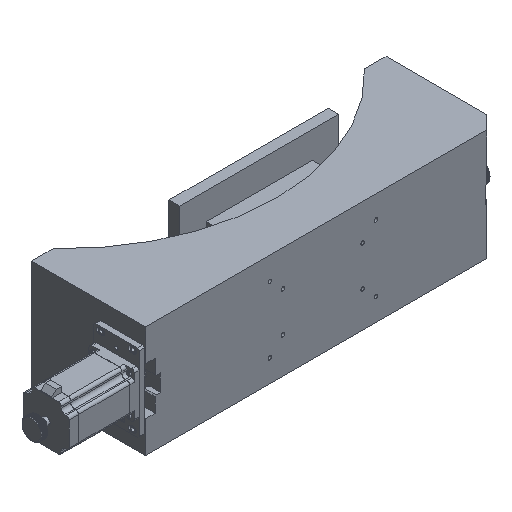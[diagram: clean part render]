
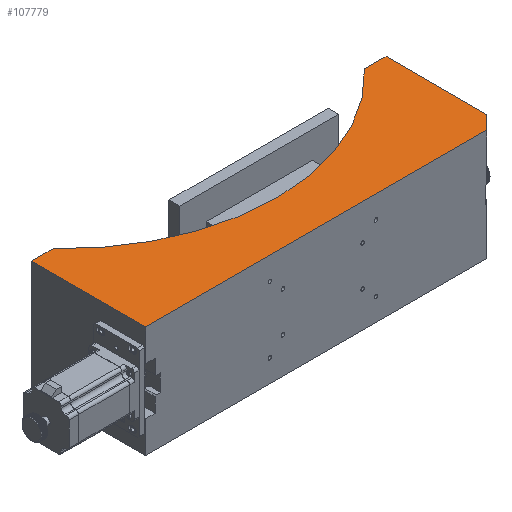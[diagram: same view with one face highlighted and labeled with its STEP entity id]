
A CAD part, isometric view. The second image highlights one B-rep face of the part: STEP entity #107779.
In plain terms, the highlighted planar face has unit normal (0, 0, 1).
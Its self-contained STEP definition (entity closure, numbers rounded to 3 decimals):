
#2150 = EDGE_LOOP ( 'NONE', ( #30627, #54651, #69217, #174279, #83484, #164025, #118990 ) ) ;
#14975 = DIRECTION ( 'NONE',  ( 0., -1., 0. ) ) ;
#18712 = CARTESIAN_POINT ( 'NONE',  ( 0., 0., 210. ) ) ;
#23628 = VECTOR ( 'NONE', #51824, 1000. ) ;
#28523 = DIRECTION ( 'NONE',  ( 1., 0., 0. ) ) ;
#30627 = ORIENTED_EDGE ( 'NONE', *, *, #188803, .T. ) ;
#33508 = VERTEX_POINT ( 'NONE', #127577 ) ;
#37346 = VERTEX_POINT ( 'NONE', #141026 ) ;
#38667 = VERTEX_POINT ( 'NONE', #199818 ) ;
#40889 = EDGE_CURVE ( 'NONE', #38667, #89665, #129681, .T. ) ;
#45379 = VECTOR ( 'NONE', #135954, 1000. ) ;
#50267 = CARTESIAN_POINT ( 'NONE',  ( 668., 0., 210. ) ) ;
#51824 = DIRECTION ( 'NONE',  ( -1., 0., 0. ) ) ;
#54200 = VECTOR ( 'NONE', #14975, 1000. ) ;
#54651 = ORIENTED_EDGE ( 'NONE', *, *, #191869, .T. ) ;
#55068 = AXIS2_PLACEMENT_3D ( 'NONE', #76690, #124496, #176460 ) ;
#55193 = CARTESIAN_POINT ( 'NONE',  ( 0., 0., 210. ) ) ;
#57496 = CARTESIAN_POINT ( 'NONE',  ( 732., 89., 210. ) ) ;
#60234 = CARTESIAN_POINT ( 'NONE',  ( 643., 0., 210. ) ) ;
#62866 = DIRECTION ( 'NONE',  ( -1., 0., 0. ) ) ;
#66227 = DIRECTION ( 'NONE',  ( 0., 1., 0. ) ) ;
#69217 = ORIENTED_EDGE ( 'NONE', *, *, #77925, .T. ) ;
#72142 = FACE_OUTER_BOUND ( 'NONE', #2150, .T. ) ;
#73973 = VECTOR ( 'NONE', #62866, 1000. ) ;
#75526 = LINE ( 'NONE', #57496, #174560 ) ;
#76690 = CARTESIAN_POINT ( 'NONE',  ( 334., 487., 210. ) ) ;
#77925 = EDGE_CURVE ( 'NONE', #106274, #33508, #192600, .T. ) ;
#83484 = ORIENTED_EDGE ( 'NONE', *, *, #40889, .T. ) ;
#89665 = VERTEX_POINT ( 'NONE', #152871 ) ;
#93679 = LINE ( 'NONE', #173376, #73973 ) ;
#98988 = CARTESIAN_POINT ( 'NONE',  ( 668., 25., 210. ) ) ;
#102990 = LINE ( 'NONE', #55193, #45379 ) ;
#106274 = VERTEX_POINT ( 'NONE', #98988 ) ;
#107779 = ADVANCED_FACE ( 'NONE', ( #72142 ), #138004, .T. ) ;
#118135 = AXIS2_PLACEMENT_3D ( 'NONE', #193052, #207925, #28523 ) ;
#118990 = ORIENTED_EDGE ( 'NONE', *, *, #177257, .T. ) ;
#124496 = DIRECTION ( 'NONE',  ( 0., 0., -1. ) ) ;
#127577 = CARTESIAN_POINT ( 'NONE',  ( 668., 215., 210. ) ) ;
#129681 = CIRCLE ( 'NONE', #55068, 400. ) ;
#132288 = VERTEX_POINT ( 'NONE', #60234 ) ;
#132579 = LINE ( 'NONE', #197286, #23628 ) ;
#135954 = DIRECTION ( 'NONE',  ( 1., 0., 0. ) ) ;
#138004 = PLANE ( 'NONE',  #118135 ) ;
#140349 = DIRECTION ( 'NONE',  ( 0.707, 0.707, 0. ) ) ;
#141026 = CARTESIAN_POINT ( 'NONE',  ( 0., 215., 210. ) ) ;
#152871 = CARTESIAN_POINT ( 'NONE',  ( 40.715, 215., 210. ) ) ;
#155782 = EDGE_CURVE ( 'NONE', #33508, #38667, #93679, .T. ) ;
#160476 = CARTESIAN_POINT ( 'NONE',  ( 0., 0., 210. ) ) ;
#160789 = EDGE_CURVE ( 'NONE', #89665, #37346, #132579, .T. ) ;
#164025 = ORIENTED_EDGE ( 'NONE', *, *, #160789, .T. ) ;
#168259 = VERTEX_POINT ( 'NONE', #18712 ) ;
#173376 = CARTESIAN_POINT ( 'NONE',  ( 668., 215., 210. ) ) ;
#174279 = ORIENTED_EDGE ( 'NONE', *, *, #155782, .T. ) ;
#174289 = LINE ( 'NONE', #160476, #54200 ) ;
#174560 = VECTOR ( 'NONE', #140349, 1000. ) ;
#176460 = DIRECTION ( 'NONE',  ( 1., 0., 0. ) ) ;
#177257 = EDGE_CURVE ( 'NONE', #37346, #168259, #174289, .T. ) ;
#188376 = VECTOR ( 'NONE', #66227, 1000. ) ;
#188803 = EDGE_CURVE ( 'NONE', #168259, #132288, #102990, .T. ) ;
#191869 = EDGE_CURVE ( 'NONE', #132288, #106274, #75526, .T. ) ;
#192600 = LINE ( 'NONE', #50267, #188376 ) ;
#193052 = CARTESIAN_POINT ( 'NONE',  ( 334., 487., 210. ) ) ;
#197286 = CARTESIAN_POINT ( 'NONE',  ( 0., 215., 210. ) ) ;
#199818 = CARTESIAN_POINT ( 'NONE',  ( 627.285, 215., 210. ) ) ;
#207925 = DIRECTION ( 'NONE',  ( 0., 0., 1. ) ) ;
